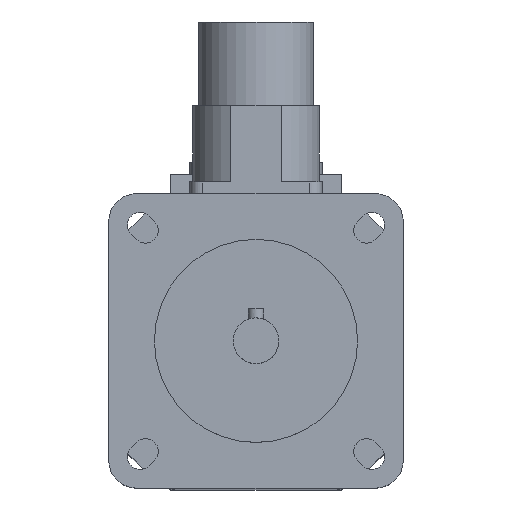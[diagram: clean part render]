
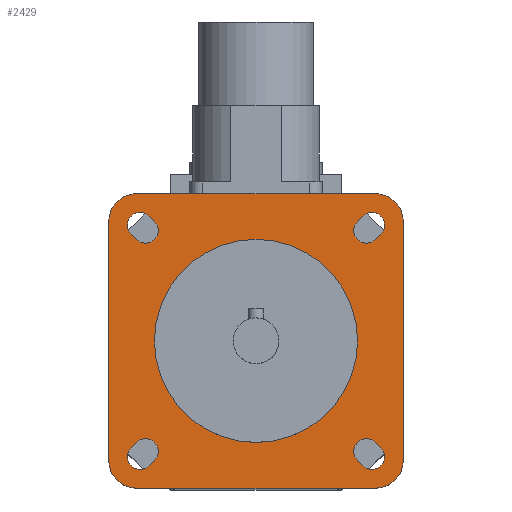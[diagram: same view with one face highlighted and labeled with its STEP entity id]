
A CAD part, top view. The second image highlights one B-rep face of the part: STEP entity #2429.
In plain terms, the highlighted planar face has unit normal (0, 0, 1).
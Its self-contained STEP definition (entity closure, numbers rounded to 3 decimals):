
#28=FACE_BOUND('',#427,.T.);
#29=FACE_BOUND('',#428,.T.);
#30=FACE_BOUND('',#429,.T.);
#31=FACE_BOUND('',#430,.T.);
#32=FACE_BOUND('',#431,.T.);
#47=CIRCLE('',#2525,20.);
#84=CIRCLE('',#2589,2.5);
#88=CIRCLE('',#2596,2.5);
#89=CIRCLE('',#2599,2.5);
#90=CIRCLE('',#2602,2.5);
#100=CIRCLE('',#2617,2.5);
#101=CIRCLE('',#2620,2.5);
#102=CIRCLE('',#2623,2.5);
#103=CIRCLE('',#2626,2.5);
#104=CIRCLE('',#2628,5.5);
#105=CIRCLE('',#2630,5.5);
#106=CIRCLE('',#2632,5.5);
#107=CIRCLE('',#2634,5.5);
#282=FACE_OUTER_BOUND('',#426,.T.);
#426=EDGE_LOOP('',(#1862,#1863,#1864,#1865,#1866,#1867,#1868,#1869));
#427=EDGE_LOOP('',(#1870));
#428=EDGE_LOOP('',(#1871,#1872,#1873,#1874));
#429=EDGE_LOOP('',(#1875,#1876,#1877,#1878));
#430=EDGE_LOOP('',(#1879,#1880,#1881,#1882));
#431=EDGE_LOOP('',(#1883,#1884,#1885,#1886));
#576=LINE('',#3759,#807);
#584=LINE('',#3783,#815);
#588=LINE('',#3793,#819);
#592=LINE('',#3803,#823);
#608=LINE('',#3854,#839);
#610=LINE('',#3860,#841);
#612=LINE('',#3866,#843);
#614=LINE('',#3872,#845);
#623=LINE('',#3900,#854);
#624=LINE('',#3901,#855);
#625=LINE('',#3902,#856);
#626=LINE('',#3903,#857);
#807=VECTOR('',#2980,1.5);
#815=VECTOR('',#3002,1.5);
#819=VECTOR('',#3012,1.5);
#823=VECTOR('',#3022,1.5);
#839=VECTOR('',#3068,1.5);
#841=VECTOR('',#3076,1.5);
#843=VECTOR('',#3084,1.5);
#845=VECTOR('',#3092,1.5);
#854=VECTOR('',#3123,47.);
#855=VECTOR('',#3124,47.);
#856=VECTOR('',#3125,47.);
#857=VECTOR('',#3126,47.);
#992=VERTEX_POINT('',#3580);
#1057=VERTEX_POINT('',#3756);
#1058=VERTEX_POINT('',#3758);
#1059=VERTEX_POINT('',#3762);
#1066=VERTEX_POINT('',#3780);
#1067=VERTEX_POINT('',#3782);
#1068=VERTEX_POINT('',#3786);
#1069=VERTEX_POINT('',#3790);
#1070=VERTEX_POINT('',#3792);
#1071=VERTEX_POINT('',#3796);
#1072=VERTEX_POINT('',#3800);
#1073=VERTEX_POINT('',#3802);
#1074=VERTEX_POINT('',#3806);
#1093=VERTEX_POINT('',#3852);
#1094=VERTEX_POINT('',#3858);
#1095=VERTEX_POINT('',#3864);
#1096=VERTEX_POINT('',#3870);
#1097=VERTEX_POINT('',#3876);
#1098=VERTEX_POINT('',#3878);
#1099=VERTEX_POINT('',#3882);
#1100=VERTEX_POINT('',#3884);
#1101=VERTEX_POINT('',#3888);
#1102=VERTEX_POINT('',#3890);
#1103=VERTEX_POINT('',#3894);
#1104=VERTEX_POINT('',#3896);
#1234=EDGE_CURVE('',#992,#992,#47,.T.);
#1320=EDGE_CURVE('',#1058,#1057,#576,.T.);
#1323=EDGE_CURVE('',#1057,#1059,#84,.T.);
#1332=EDGE_CURVE('',#1067,#1066,#584,.T.);
#1335=EDGE_CURVE('',#1066,#1068,#88,.T.);
#1337=EDGE_CURVE('',#1070,#1069,#588,.T.);
#1340=EDGE_CURVE('',#1069,#1071,#89,.T.);
#1342=EDGE_CURVE('',#1073,#1072,#592,.T.);
#1345=EDGE_CURVE('',#1072,#1074,#90,.T.);
#1368=EDGE_CURVE('',#1071,#1093,#608,.T.);
#1369=EDGE_CURVE('',#1093,#1070,#100,.T.);
#1371=EDGE_CURVE('',#1068,#1094,#610,.T.);
#1372=EDGE_CURVE('',#1094,#1067,#101,.T.);
#1374=EDGE_CURVE('',#1074,#1095,#612,.T.);
#1375=EDGE_CURVE('',#1095,#1073,#102,.T.);
#1377=EDGE_CURVE('',#1059,#1096,#614,.T.);
#1378=EDGE_CURVE('',#1096,#1058,#103,.T.);
#1380=EDGE_CURVE('',#1098,#1097,#104,.T.);
#1383=EDGE_CURVE('',#1100,#1099,#105,.T.);
#1386=EDGE_CURVE('',#1102,#1101,#106,.T.);
#1389=EDGE_CURVE('',#1104,#1103,#107,.T.);
#1391=EDGE_CURVE('',#1097,#1104,#623,.T.);
#1392=EDGE_CURVE('',#1103,#1102,#624,.T.);
#1393=EDGE_CURVE('',#1101,#1100,#625,.T.);
#1394=EDGE_CURVE('',#1099,#1098,#626,.T.);
#1862=ORIENTED_EDGE('',*,*,#1391,.T.);
#1863=ORIENTED_EDGE('',*,*,#1389,.T.);
#1864=ORIENTED_EDGE('',*,*,#1392,.T.);
#1865=ORIENTED_EDGE('',*,*,#1386,.T.);
#1866=ORIENTED_EDGE('',*,*,#1393,.T.);
#1867=ORIENTED_EDGE('',*,*,#1383,.T.);
#1868=ORIENTED_EDGE('',*,*,#1394,.T.);
#1869=ORIENTED_EDGE('',*,*,#1380,.T.);
#1870=ORIENTED_EDGE('',*,*,#1234,.T.);
#1871=ORIENTED_EDGE('',*,*,#1368,.T.);
#1872=ORIENTED_EDGE('',*,*,#1369,.T.);
#1873=ORIENTED_EDGE('',*,*,#1337,.T.);
#1874=ORIENTED_EDGE('',*,*,#1340,.T.);
#1875=ORIENTED_EDGE('',*,*,#1371,.T.);
#1876=ORIENTED_EDGE('',*,*,#1372,.T.);
#1877=ORIENTED_EDGE('',*,*,#1332,.T.);
#1878=ORIENTED_EDGE('',*,*,#1335,.T.);
#1879=ORIENTED_EDGE('',*,*,#1374,.T.);
#1880=ORIENTED_EDGE('',*,*,#1375,.T.);
#1881=ORIENTED_EDGE('',*,*,#1342,.T.);
#1882=ORIENTED_EDGE('',*,*,#1345,.T.);
#1883=ORIENTED_EDGE('',*,*,#1377,.T.);
#1884=ORIENTED_EDGE('',*,*,#1378,.T.);
#1885=ORIENTED_EDGE('',*,*,#1320,.T.);
#1886=ORIENTED_EDGE('',*,*,#1323,.T.);
#2328=PLANE('',#2635);
#2429=ADVANCED_FACE('',(#282,#28,#29,#30,#31,#32),#2328,.T.);
#2525=AXIS2_PLACEMENT_3D('',#3581,#2805,#2806);
#2589=AXIS2_PLACEMENT_3D('',#3764,#2985,#2986);
#2596=AXIS2_PLACEMENT_3D('',#3788,#3007,#3008);
#2599=AXIS2_PLACEMENT_3D('',#3798,#3017,#3018);
#2602=AXIS2_PLACEMENT_3D('',#3808,#3027,#3028);
#2617=AXIS2_PLACEMENT_3D('',#3856,#3071,#3072);
#2620=AXIS2_PLACEMENT_3D('',#3862,#3079,#3080);
#2623=AXIS2_PLACEMENT_3D('',#3868,#3087,#3088);
#2626=AXIS2_PLACEMENT_3D('',#3874,#3095,#3096);
#2628=AXIS2_PLACEMENT_3D('',#3879,#3100,#3101);
#2630=AXIS2_PLACEMENT_3D('',#3885,#3106,#3107);
#2632=AXIS2_PLACEMENT_3D('',#3891,#3112,#3113);
#2634=AXIS2_PLACEMENT_3D('',#3897,#3118,#3119);
#2635=AXIS2_PLACEMENT_3D('',#3899,#3121,#3122);
#2805=DIRECTION('center_axis',(0.,0.,-1.));
#2806=DIRECTION('ref_axis',(-1.,0.,0.));
#2980=DIRECTION('',(-0.707,-0.707,0.));
#2985=DIRECTION('center_axis',(0.,0.,-1.));
#2986=DIRECTION('ref_axis',(0.707,-0.707,0.));
#3002=DIRECTION('',(-0.707,0.707,0.));
#3007=DIRECTION('center_axis',(0.,0.,-1.));
#3008=DIRECTION('ref_axis',(-0.707,-0.707,0.));
#3012=DIRECTION('',(-0.707,-0.707,0.));
#3017=DIRECTION('center_axis',(0.,0.,-1.));
#3018=DIRECTION('ref_axis',(0.707,-0.707,0.));
#3022=DIRECTION('',(-0.707,0.707,0.));
#3027=DIRECTION('center_axis',(0.,0.,-1.));
#3028=DIRECTION('ref_axis',(-0.707,-0.707,0.));
#3068=DIRECTION('',(0.707,0.707,0.));
#3071=DIRECTION('center_axis',(0.,0.,-1.));
#3072=DIRECTION('ref_axis',(-0.707,0.707,0.));
#3076=DIRECTION('',(0.707,-0.707,0.));
#3079=DIRECTION('center_axis',(0.,0.,-1.));
#3080=DIRECTION('ref_axis',(0.707,0.707,0.));
#3084=DIRECTION('',(0.707,-0.707,0.));
#3087=DIRECTION('center_axis',(0.,0.,-1.));
#3088=DIRECTION('ref_axis',(0.707,0.707,0.));
#3092=DIRECTION('',(0.707,0.707,0.));
#3095=DIRECTION('center_axis',(0.,0.,-1.));
#3096=DIRECTION('ref_axis',(-0.707,0.707,0.));
#3100=DIRECTION('center_axis',(0.,0.,1.));
#3101=DIRECTION('ref_axis',(1.,0.,0.));
#3106=DIRECTION('center_axis',(0.,0.,1.));
#3107=DIRECTION('ref_axis',(0.,-1.,0.));
#3112=DIRECTION('center_axis',(0.,0.,1.));
#3113=DIRECTION('ref_axis',(-1.,0.,0.));
#3118=DIRECTION('center_axis',(0.,0.,1.));
#3119=DIRECTION('ref_axis',(0.,1.,0.));
#3121=DIRECTION('center_axis',(0.,0.,1.));
#3122=DIRECTION('ref_axis',(1.,0.,0.));
#3123=DIRECTION('',(-1.,0.,0.));
#3124=DIRECTION('',(0.,-1.,0.));
#3125=DIRECTION('',(1.,0.,0.));
#3126=DIRECTION('',(0.,1.,0.));
#3580=CARTESIAN_POINT('',(20.,0.,143.5));
#3581=CARTESIAN_POINT('Origin',(0.,0.,143.5));
#3756=CARTESIAN_POINT('',(-21.036,-24.572,143.5));
#3758=CARTESIAN_POINT('',(-19.976,-23.511,143.5));
#3759=CARTESIAN_POINT('',(-9.634,-13.17,143.5));
#3762=CARTESIAN_POINT('',(-24.572,-21.036,143.5));
#3764=CARTESIAN_POINT('Origin',(-22.804,-22.804,143.5));
#3780=CARTESIAN_POINT('',(-24.572,21.036,143.5));
#3782=CARTESIAN_POINT('',(-23.511,19.976,143.5));
#3783=CARTESIAN_POINT('',(-13.17,9.634,143.5));
#3786=CARTESIAN_POINT('',(-21.036,24.572,143.5));
#3788=CARTESIAN_POINT('Origin',(-22.804,22.804,143.5));
#3790=CARTESIAN_POINT('',(23.511,19.976,143.5));
#3792=CARTESIAN_POINT('',(24.572,21.036,143.5));
#3793=CARTESIAN_POINT('',(12.64,9.104,143.5));
#3796=CARTESIAN_POINT('',(19.976,23.511,143.5));
#3798=CARTESIAN_POINT('Origin',(21.744,21.744,143.5));
#3800=CARTESIAN_POINT('',(19.976,-23.511,143.5));
#3802=CARTESIAN_POINT('',(21.036,-24.572,143.5));
#3803=CARTESIAN_POINT('',(9.104,-12.64,143.5));
#3806=CARTESIAN_POINT('',(23.511,-19.976,143.5));
#3808=CARTESIAN_POINT('Origin',(21.744,-21.744,143.5));
#3852=CARTESIAN_POINT('',(21.036,24.572,143.5));
#3854=CARTESIAN_POINT('',(9.634,13.17,143.5));
#3856=CARTESIAN_POINT('Origin',(22.804,22.804,143.5));
#3858=CARTESIAN_POINT('',(-19.976,23.511,143.5));
#3860=CARTESIAN_POINT('',(-9.104,12.64,143.5));
#3862=CARTESIAN_POINT('Origin',(-21.744,21.744,143.5));
#3864=CARTESIAN_POINT('',(24.572,-21.036,143.5));
#3866=CARTESIAN_POINT('',(13.17,-9.634,143.5));
#3868=CARTESIAN_POINT('Origin',(22.804,-22.804,143.5));
#3870=CARTESIAN_POINT('',(-23.511,-19.976,143.5));
#3872=CARTESIAN_POINT('',(-12.64,-9.104,143.5));
#3874=CARTESIAN_POINT('Origin',(-21.744,-21.744,143.5));
#3876=CARTESIAN_POINT('',(23.5,29.,143.5));
#3878=CARTESIAN_POINT('',(29.,23.5,143.5));
#3879=CARTESIAN_POINT('Origin',(23.5,23.5,143.5));
#3882=CARTESIAN_POINT('',(29.,-23.5,143.5));
#3884=CARTESIAN_POINT('',(23.5,-29.,143.5));
#3885=CARTESIAN_POINT('Origin',(23.5,-23.5,143.5));
#3888=CARTESIAN_POINT('',(-23.5,-29.,143.5));
#3890=CARTESIAN_POINT('',(-29.,-23.5,143.5));
#3891=CARTESIAN_POINT('Origin',(-23.5,-23.5,143.5));
#3894=CARTESIAN_POINT('',(-29.,23.5,143.5));
#3896=CARTESIAN_POINT('',(-23.5,29.,143.5));
#3897=CARTESIAN_POINT('Origin',(-23.5,23.5,143.5));
#3899=CARTESIAN_POINT('Origin',(0.,0.,
143.5));
#3900=CARTESIAN_POINT('',(23.5,29.,143.5));
#3901=CARTESIAN_POINT('',(-29.,23.5,143.5));
#3902=CARTESIAN_POINT('',(-23.5,-29.,143.5));
#3903=CARTESIAN_POINT('',(29.,-23.5,143.5));
